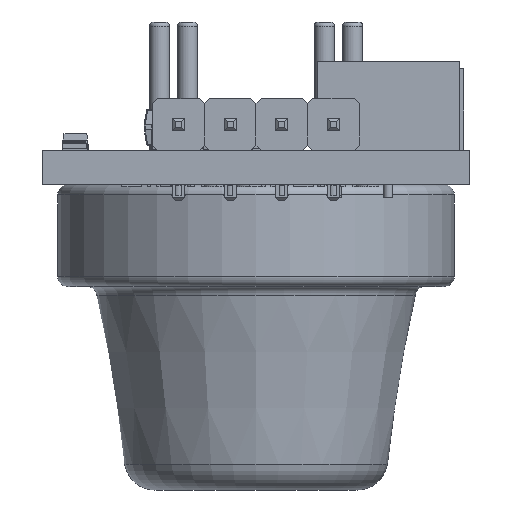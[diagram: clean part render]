
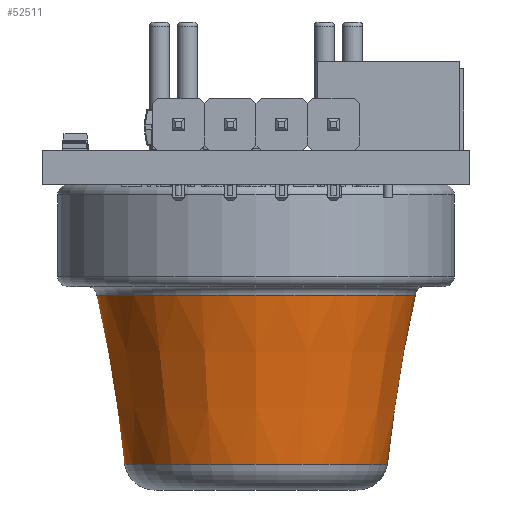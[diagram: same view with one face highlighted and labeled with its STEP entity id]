
A CAD part, left-side view. The second image highlights one B-rep face of the part: STEP entity #52511.
In plain terms, the highlighted conical face has half-angle 9.369 degrees and reference radius 7.9 mm.
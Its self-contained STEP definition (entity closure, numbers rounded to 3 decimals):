
#1147 = CARTESIAN_POINT ( 'NONE',  ( -6.457, 0., -13.744 ) ) ;
#7351 = VERTEX_POINT ( 'NONE', #1147 ) ;
#8013 = EDGE_LOOP ( 'NONE', ( #18166 ) ) ;
#9772 = EDGE_CURVE ( 'NONE', #27609, #27609, #32094, .T. ) ;
#15319 = DIRECTION ( 'NONE',  ( -1., 0., 0. ) ) ;
#18166 = ORIENTED_EDGE ( 'NONE', *, *, #61956, .T. ) ;
#19509 = CARTESIAN_POINT ( 'NONE',  ( 0., 0., -13.744 ) ) ;
#25359 = CARTESIAN_POINT ( 'NONE',  ( 0., 0., -5.419 ) ) ;
#26398 = CIRCLE ( 'NONE', #41638, 6.457 ) ;
#27609 = VERTEX_POINT ( 'NONE', #32967 ) ;
#29021 = EDGE_LOOP ( 'NONE', ( #41916 ) ) ;
#30107 = DIRECTION ( 'NONE',  ( 0., 0., 1. ) ) ;
#30737 = DIRECTION ( 'NONE',  ( 0., 0., -1. ) ) ;
#32094 = CIRCLE ( 'NONE', #58528, 7.831 ) ;
#32958 = FACE_BOUND ( 'NONE', #8013, .T. ) ;
#32967 = CARTESIAN_POINT ( 'NONE',  ( 7.831, 0., -5.419 ) ) ;
#33288 = CARTESIAN_POINT ( 'NONE',  ( 0., 0., -5. ) ) ;
#34574 = DIRECTION ( 'NONE',  ( 1., 0., 0. ) ) ;
#38902 = DIRECTION ( 'NONE',  ( 0., 0., 1. ) ) ;
#41638 = AXIS2_PLACEMENT_3D ( 'NONE', #19509, #38902, #15319 ) ;
#41916 = ORIENTED_EDGE ( 'NONE', *, *, #9772, .T. ) ;
#52511 = ADVANCED_FACE ( 'NONE', ( #57177, #32958 ), #58111, .T. ) ;
#57177 = FACE_OUTER_BOUND ( 'NONE', #29021, .T. ) ;
#58111 = CONICAL_SURFACE ( 'NONE', #61155, 7.9, 0.164 ) ;
#58528 = AXIS2_PLACEMENT_3D ( 'NONE', #25359, #30737, #34574 ) ;
#59045 = DIRECTION ( 'NONE',  ( 1., 0., 0. ) ) ;
#61155 = AXIS2_PLACEMENT_3D ( 'NONE', #33288, #30107, #59045 ) ;
#61956 = EDGE_CURVE ( 'NONE', #7351, #7351, #26398, .T. ) ;
